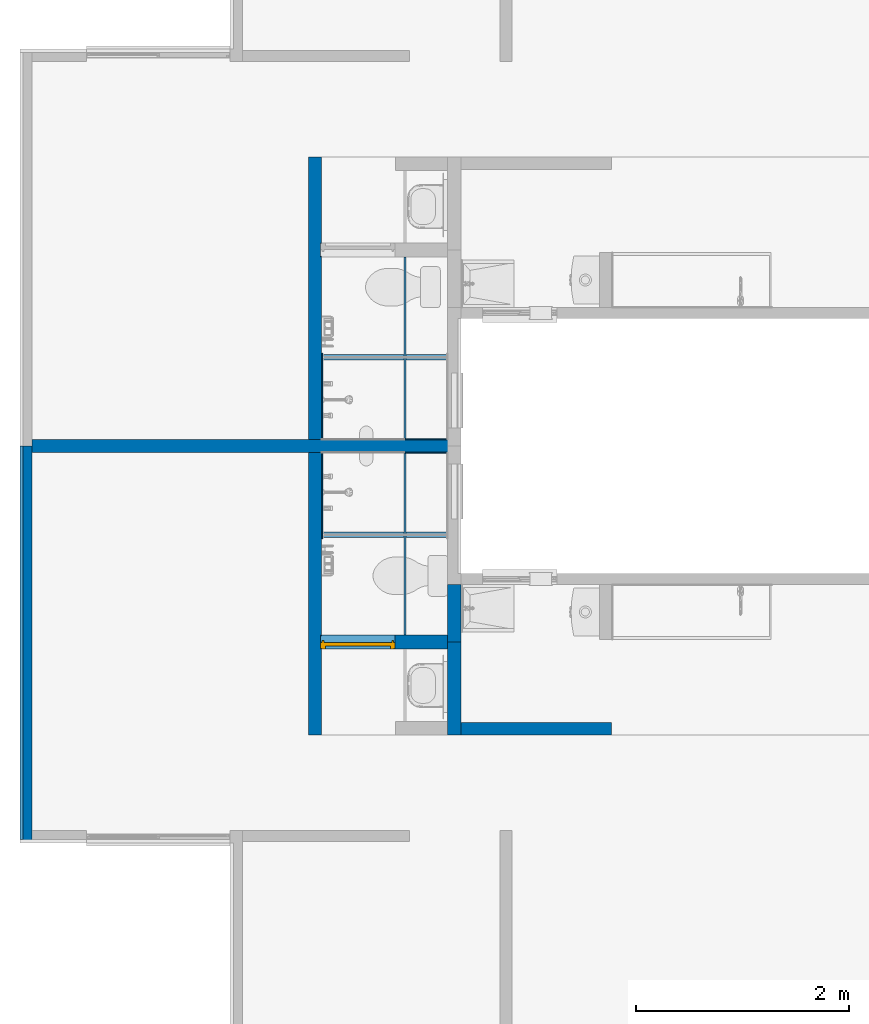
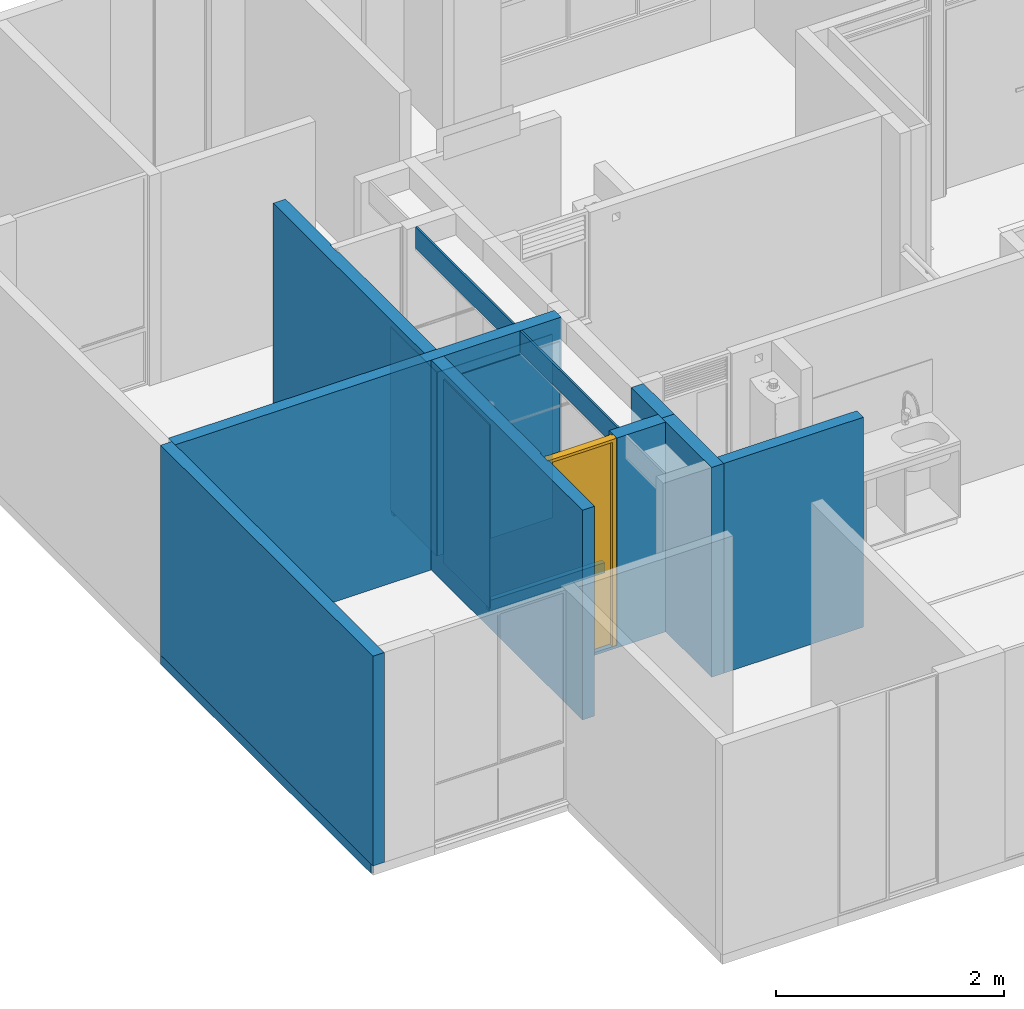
# One storey, part 7 of 48: 17 walls, 1 door, 3 openings.
"""IFC4 building model written with IfcOpenShell, lengths in metres."""

from ifc_helpers import new_model, entity, si_unit, converted_unit, derived_unit, direction, frame, origin, place, context, subcontext, project, spatial, indexed_curve, outline, extrude, polygons, source, transform, mapped, material, constituent, constituent_set, type_object, type_shapes, element, fill, save


model = new_model("IFC4")

# Units and contexts
model_context = context("Model", 3, precision=1e-05, world=origin(), true_north=direction((6.123031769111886e-17, 1.0)))
body_context = subcontext(model_context, "Body", "Model", "MODEL_VIEW")
ifc_project = project(units=[si_unit("LENGTHUNIT", "METRE"), si_unit("AREAUNIT", "SQUARE_METRE"), si_unit("VOLUMEUNIT", "CUBIC_METRE"), converted_unit("PLANEANGLEUNIT", "DEGREE", entity("IfcRatioMeasure", 0.017453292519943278), si_unit("PLANEANGLEUNIT", "RADIAN"), dimensions=[0, 0, 0, 0, 0, 0, 0]), si_unit("MASSUNIT", "GRAM", prefix="KILO"), derived_unit("MASSDENSITYUNIT", [(si_unit("MASSUNIT", "GRAM", prefix="KILO"), 1), (si_unit("LENGTHUNIT", "METRE"), -3)]), derived_unit("IONCONCENTRATIONUNIT", [(si_unit("MASSUNIT", "GRAM", prefix="KILO"), 1), (si_unit("LENGTHUNIT", "METRE"), -3)]), derived_unit("MOMENTOFINERTIAUNIT", [(si_unit("LENGTHUNIT", "METRE"), 4)]), si_unit("TIMEUNIT", "SECOND"), si_unit("FREQUENCYUNIT", "HERTZ"), si_unit("THERMODYNAMICTEMPERATUREUNIT", "DEGREE_CELSIUS"), derived_unit("THERMALTRANSMITTANCEUNIT", [(si_unit("MASSUNIT", "GRAM", prefix="KILO"), 1), (si_unit("THERMODYNAMICTEMPERATUREUNIT", "KELVIN"), -1), (si_unit("TIMEUNIT", "SECOND"), -3)]), derived_unit("THERMALCONDUCTANCEUNIT", [(si_unit("MASSUNIT", "GRAM", prefix="KILO"), 1), (si_unit("THERMODYNAMICTEMPERATUREUNIT", "KELVIN"), -1), (si_unit("TIMEUNIT", "SECOND"), -3), (si_unit("LENGTHUNIT", "METRE"), 1)]), derived_unit("VOLUMETRICFLOWRATEUNIT", [(si_unit("LENGTHUNIT", "METRE"), 3), (si_unit("TIMEUNIT", "SECOND"), -1)]), derived_unit("MASSFLOWRATEUNIT", [(si_unit("MASSUNIT", "GRAM", prefix="KILO"), 1), (si_unit("TIMEUNIT", "SECOND"), -1)]), derived_unit("ROTATIONALFREQUENCYUNIT", [(si_unit("TIMEUNIT", "SECOND"), -1)]), si_unit("ELECTRICCURRENTUNIT", "AMPERE"), si_unit("ELECTRICVOLTAGEUNIT", "VOLT"), si_unit("POWERUNIT", "WATT"), si_unit("FORCEUNIT", "NEWTON", prefix="KILO"), si_unit("ILLUMINANCEUNIT", "LUX"), si_unit("LUMINOUSFLUXUNIT", "LUMEN"), si_unit("LUMINOUSINTENSITYUNIT", "CANDELA"), derived_unit("USERDEFINED", [(si_unit("MASSUNIT", "GRAM", prefix="KILO"), -1), (si_unit("LENGTHUNIT", "METRE"), -2), (si_unit("TIMEUNIT", "SECOND"), 3), (si_unit("LUMINOUSFLUXUNIT", "LUMEN"), 1)]), derived_unit("USERDEFINED", [(si_unit("MASSUNIT", "GRAM", prefix="KILO"), 1), (si_unit("TIMEUNIT", "SECOND"), -3), (si_unit("LENGTHUNIT", "METRE"), 3), (si_unit("ELECTRICCURRENTUNIT", "AMPERE"), -2)]), derived_unit("SOUNDPOWERUNIT", [(si_unit("MASSUNIT", "GRAM", prefix="KILO"), 1), (si_unit("TIMEUNIT", "SECOND"), -3), (si_unit("LENGTHUNIT", "METRE"), 2)]), derived_unit("SOUNDPRESSUREUNIT", [(si_unit("MASSUNIT", "GRAM", prefix="KILO"), 1), (si_unit("LENGTHUNIT", "METRE"), -1), (si_unit("TIMEUNIT", "SECOND"), -2)]), derived_unit("LINEARVELOCITYUNIT", [(si_unit("LENGTHUNIT", "METRE"), 1), (si_unit("TIMEUNIT", "SECOND"), -1)]), si_unit("PRESSUREUNIT", "PASCAL"), derived_unit("USERDEFINED", [(si_unit("MASSUNIT", "GRAM", prefix="KILO"), 1), (si_unit("LENGTHUNIT", "METRE"), -2), (si_unit("TIMEUNIT", "SECOND"), -2)]), derived_unit("LINEARFORCEUNIT", [(si_unit("MASSUNIT", "GRAM", prefix="KILO"), 1), (si_unit("TIMEUNIT", "SECOND"), -2)]), derived_unit("PLANARFORCEUNIT", [(si_unit("MASSUNIT", "GRAM", prefix="KILO"), 1), (si_unit("LENGTHUNIT", "METRE"), -1), (si_unit("TIMEUNIT", "SECOND"), -2)]), derived_unit("SPECIFICHEATCAPACITYUNIT", [(si_unit("THERMODYNAMICTEMPERATUREUNIT", "KELVIN"), -1), (si_unit("LENGTHUNIT", "METRE"), 2), (si_unit("TIMEUNIT", "SECOND"), -2)]), derived_unit("HEATINGVALUEUNIT", [(si_unit("LENGTHUNIT", "METRE"), 2), (si_unit("TIMEUNIT", "SECOND"), -2)]), derived_unit("VAPORPERMEABILITYUNIT", [(si_unit("LENGTHUNIT", "METRE"), -1), (si_unit("TIMEUNIT", "SECOND"), 1)]), derived_unit("DYNAMICVISCOSITYUNIT", [(si_unit("MASSUNIT", "GRAM", prefix="KILO"), 1), (si_unit("TIMEUNIT", "SECOND"), -1), (si_unit("LENGTHUNIT", "METRE"), -1)]), derived_unit("THERMALEXPANSIONCOEFFICIENTUNIT", [(si_unit("THERMODYNAMICTEMPERATUREUNIT", "KELVIN"), -1)]), derived_unit("MODULUSOFELASTICITYUNIT", [(si_unit("MASSUNIT", "GRAM", prefix="KILO"), 1), (si_unit("LENGTHUNIT", "METRE"), -1), (si_unit("TIMEUNIT", "SECOND"), -2)]), derived_unit("ISOTHERMALMOISTURECAPACITYUNIT", [(si_unit("LENGTHUNIT", "METRE"), 3), (si_unit("MASSUNIT", "GRAM", prefix="KILO"), -1)]), derived_unit("MOISTUREDIFFUSIVITYUNIT", [(si_unit("TIMEUNIT", "SECOND"), -1), (si_unit("LENGTHUNIT", "METRE"), 2)])], contexts=[model_context])

# Site, building, storey
site_placement = place(None, origin())
site = spatial("IfcSite", under=ifc_project, at=site_placement, Name="Default", CompositionType="ELEMENT")
building_placement = place(site_placement, origin())
building = spatial("IfcBuilding", under=site, at=building_placement, CompositionType="ELEMENT")
storey_placement = place(building_placement, frame((0.0, 0.0, 4.700000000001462)))
storey = spatial("IfcBuildingStorey", under=building, at=storey_placement, Name="Nivel 3", CompositionType="ELEMENT", Elevation=4.700000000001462)

# Walls
ifc_material_1 = material(Name="Concreto (Aire)", Category="Materials")
wall_type_1 = type_object("IfcWallType", Name="Basic Wall:B2010 - 0.12m - Muro interior en concreto", PredefinedType="STANDARD")
wall_1_placement = place(storey_placement, frame((0.057499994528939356, -6.425000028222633, 0.0)))
element("IfcWall", 1, at=wall_1_placement, inside=storey, type_object=wall_type_1, material=ifc_material_1, Name="Basic Wall:B2010 - 0.12m - Muro interior en concreto", ObjectType="Basic Wall:B2010 - 0.12m - Muro interior en concreto", PredefinedType="NOTDEFINED", context=body_context, shape_type="SweptSolid", body=[
    extrude(outline(indexed_curve([(3.915, 0.06000000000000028), (-2.183027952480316e-18, 0.060000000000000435), (2.183027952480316e-18, -0.060000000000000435), (3.915, -0.06000000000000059), (3.915, 0.06000000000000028)], self_intersect=False)), origin(), (0.0, 0.0, 1.0), 2.250000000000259),
])
ifc_material_2 = material(Name="Ladrillo claro (Aire)", Category="Materials")
wall_type_2 = type_object("IfcWallType", Name="Basic Wall:B2010 - 0.115m - Muro exterior en mampostería - Ladrillo", PredefinedType="STANDARD")
wall_2_placement = place(storey_placement, frame((0.0, -10.15500002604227, 0.0), z_axis=(0.0, 0.0, 1.0), x_axis=(0.0, 1.0, 0.0)))
element("IfcWall", 2, at=wall_2_placement, inside=storey, type_object=wall_type_2, material=ifc_material_2, Name="Basic Wall:B2010 - 0.115m - Muro exterior en mampostería - Ladrillo", ObjectType="Basic Wall:B2010 - 0.115m - Muro exterior en mampostería - Ladrillo", PredefinedType="NOTDEFINED", context=body_context, shape_type="SweptSolid", body=[
    extrude(outline(indexed_curve([(3.7299999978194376, 0.0575), (-4.594741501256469e-16, 0.0575), (4.594741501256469e-16, -0.0575), (3.7299999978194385, -0.0575), (3.7299999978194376, 0.0575)], self_intersect=False)), origin(), (0.0, 0.0, 1.0), 2.2500000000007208),
])
wall_type_3 = type_object("IfcWallType", Name="Basic Wall:B2010 - 0.115m - Muro interior en mampostería - Ladrillo", PredefinedType="STANDARD")
wall_3_placement = place(storey_placement, frame((4.087499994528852, -9.082499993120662, 0.0)))
element("IfcWall", 3, at=wall_3_placement, inside=storey, type_object=wall_type_3, material=ifc_material_2, Name="Basic Wall:B2010 - 0.115m - Muro interior en mampostería - Ladrillo", ObjectType="Basic Wall:B2010 - 0.115m - Muro interior en mampostería - Ladrillo", PredefinedType="NOTDEFINED", context=body_context, shape_type="SweptSolid", body=[
    extrude(outline(indexed_curve([(1.414999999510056, 0.05749999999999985), (-1.7283953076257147e-16, 0.057499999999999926), (1.7283953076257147e-16, -0.057499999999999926), (1.4149999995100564, -0.0575), (1.414999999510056, 0.05749999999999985)], self_intersect=False)), origin(), (0.0, 0.0, 1.0), 2.2499999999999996),
])

# Wall, opening
ifc_material_3 = material(Name="Pañete", Category="Materials")
ifc_constituent_1 = constituent(ifc_material_3, Name="Pañete", Category="Materials")
ifc_constituent_2 = constituent(ifc_material_2, Name="Ladrillo claro (Aire)", Category="Materials")
ifc_constituent_set_1 = constituent_set(constituents=[ifc_constituent_1, ifc_constituent_2], Name="Basic Wall:B2010 - 0.115m - Muro interior en mampostería - Ladrillo + Pañete")
wall_type_4 = type_object("IfcWallType", Name="Basic Wall:B2010 - 0.115m - Muro interior en mampostería - Ladrillo + Pañete", PredefinedType="STANDARD", material=ifc_constituent_set_1)
wall_4_placement = place(storey_placement, frame((2.7150010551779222, -3.7100000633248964, 0.0), z_axis=(0.0, 0.0, 1.0), x_axis=(0.0, -1.0, 0.0)))
wall_4 = element("IfcWall", 4, at=wall_4_placement, inside=storey, type_object=wall_type_4, material=ifc_constituent_set_1, Name="Basic Wall:B2010 - 0.115m - Muro interior en mampostería - Ladrillo + Pañete", ObjectType="Basic Wall:B2010 - 0.115m - Muro interior en mampostería - Ladrillo + Pañete", PredefinedType="NOTDEFINED", context=body_context, shape_type="SweptSolid", body=[
    extrude(outline(indexed_curve([(-1.1325000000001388, -1.0999999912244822), (1.1174999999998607, -1.0999999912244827), (1.1175000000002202, -0.294999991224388), (-1.1024999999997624, -0.29499999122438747), (-1.1024999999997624, -0.15999999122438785), (1.1174999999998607, -0.1599999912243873), (1.1174999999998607, 1.5549999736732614), (-1.1325000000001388, 1.5549999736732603), (-1.1325000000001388, -1.0999999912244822)], self_intersect=False)), frame((1.0999999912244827, 0.0524999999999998, 1.1325000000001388), z_axis=(0.0, 1.0, 0.0), x_axis=(0.0, 0.0, 1.0)), (0.0, 0.0, 1.0), 0.009999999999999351),
    extrude(outline(indexed_curve([(-0.05750000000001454, -1.3274999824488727), (0.05749999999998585, -1.3274999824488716), (0.05750000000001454, 1.327499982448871), (-0.057499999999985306, 1.3274999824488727), (-0.05750000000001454, -1.3274999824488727)], self_intersect=False)), frame((1.3274999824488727, -0.005000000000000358, 0.0), z_axis=(0.0, 0.0, 1.0), x_axis=(0.0, 1.0, 0.0)), (0.0, 0.0, 1.0), 2.2499999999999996),
])
opening_1_placement = place(wall_4_placement, origin())
element("IfcOpeningElement", 5, at=opening_1_placement, cuts=wall_4, Name="Basic Wall:B2010 - 0.115m - Muro interior en mampostería - Ladrillo + Pañete", PredefinedType="OPENING", context=body_context, shape_type="SweptSolid", body=[
    extrude(outline(indexed_curve([(-0.06749999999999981, -1.1099999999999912), (0.06750000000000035, -1.1099999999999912), (0.06750000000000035, 1.1099999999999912), (-0.06749999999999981, 1.1099999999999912), (-0.06749999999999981, -1.1099999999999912)], self_intersect=False)), frame((0.8725000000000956, 0.05249999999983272, 1.1400000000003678), z_axis=(0.0, 1.0, 0.0), x_axis=(-1.0, 0.0, 0.0)), (0.0, 0.0, 1.0), 0.7000000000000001),
])

wall_5_placement = place(storey_placement, frame((2.715001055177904, -9.139999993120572, 0.0), z_axis=(0.0, 0.0, 1.0), x_axis=(0.0, 1.0, 0.0)))
wall_5 = element("IfcWall", 6, at=wall_5_placement, inside=storey, type_object=wall_type_4, material=ifc_constituent_set_1, Name="Basic Wall:B2010 - 0.115m - Muro interior en mampostería - Ladrillo + Pañete", ObjectType="Basic Wall:B2010 - 0.115m - Muro interior en mampostería - Ladrillo + Pañete", PredefinedType="NOTDEFINED", context=body_context, shape_type="SweptSolid", body=[
    extrude(outline(indexed_curve([(-1.1325000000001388, -1.5549999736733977), (1.1174999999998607, -1.5549999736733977), (1.1175000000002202, 0.1599999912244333), (-1.1024999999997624, 0.15999999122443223), (-1.1024999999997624, 0.29499999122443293), (1.1174999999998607, 0.2949999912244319), (1.1174999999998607, 1.0999999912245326), (-1.1325000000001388, 1.0999999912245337), (-1.1325000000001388, -1.5549999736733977)], self_intersect=False)), frame((1.0999999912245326, -0.05249999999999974, 1.1325000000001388), z_axis=(0.0, -1.0, 0.0), x_axis=(0.0, 0.0, 1.0)), (0.0, 0.0, 1.0), 0.009999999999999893),
    extrude(outline(indexed_curve([(-0.05750000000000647, -1.3274999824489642), (0.057499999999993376, -1.3274999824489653), (0.05750000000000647, 1.3274999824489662), (-0.057499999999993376, 1.3274999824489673), (-0.05750000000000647, -1.3274999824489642)], self_intersect=False)), frame((1.3274999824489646, 0.004999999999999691, 0.0), z_axis=(0.0, 0.0, 1.0), x_axis=(0.0, -1.0, 0.0)), (0.0, 0.0, 1.0), 2.2499999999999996),
])
opening_2_placement = place(wall_5_placement, origin())
element("IfcOpeningElement", 7, at=opening_2_placement, cuts=wall_5, Name="Basic Wall:B2010 - 0.115m - Muro interior en mampostería - Ladrillo + Pañete", PredefinedType="OPENING", context=body_context, shape_type="SweptSolid", body=[
    extrude(outline(indexed_curve([(-0.06749999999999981, -1.1099999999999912), (0.06749999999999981, -1.1099999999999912), (0.06749999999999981, 1.1099999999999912), (-0.06749999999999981, 1.1099999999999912), (-0.06749999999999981, -1.1099999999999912)], self_intersect=False)), frame((0.8725000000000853, -0.7524999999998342, 1.1400000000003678), z_axis=(0.0, 1.0, 0.0), x_axis=(1.0, 0.0, 0.0)), (0.0, 0.0, 1.0), 0.7000000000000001),
])

# Wall, opening, door
ifc_constituent_3 = constituent(ifc_material_3, Name="Pañete", Category="Materials")
ifc_material_4 = material(Name="LADRILLO CLARO", Category="Materials")
ifc_constituent_4 = constituent(ifc_material_4, Name="LADRILLO CLARO", Category="Materials")
ifc_constituent_5 = constituent(ifc_material_3, Name="Pañete (2)", Category="Materials")
ifc_constituent_set_2 = constituent_set(constituents=[ifc_constituent_3, ifc_constituent_4, ifc_constituent_5], Name="Basic Wall:B2010 - 0.115m - MI  mampostería no estructural - Pañete + Ladrillo + Pañete")
wall_type_5 = type_object("IfcWallType", Name="Basic Wall:B2010 - 0.115m - MI  mampostería no estructural - Pañete + Ladrillo + Pañete", PredefinedType="STANDARD", material=ifc_constituent_set_2)
wall_6_placement = place(storey_placement, frame((3.9624999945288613, -8.26749999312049, 0.0), z_axis=(0.0, 0.0, 1.0), x_axis=(-1.0, 0.0, 0.0)))
wall_6 = element("IfcWall", 8, at=wall_6_placement, inside=storey, type_object=wall_type_5, material=ifc_constituent_set_2, Name="Basic Wall:B2010 - 0.115m - MI  mampostería no estructural - Pañete + Ladrillo + Pañete", ObjectType="Basic Wall:B2010 - 0.115m - MI  mampostería no estructural - Pañete + Ladrillo + Pañete", PredefinedType="NOTDEFINED", context=body_context, shape_type="SweptSolid", body=[
    extrude(outline(indexed_curve([(-0.7600000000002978, -0.6249996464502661), (-0.7299999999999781, -0.6249996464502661), (-0.7299999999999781, 0.06500035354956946), (1.4900000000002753, 0.06500035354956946), (1.4900000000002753, 0.559999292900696), (-0.7600000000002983, 0.5599992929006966), (-0.7600000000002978, -0.6249996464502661)], self_intersect=False)), frame((0.5599992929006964, -0.057499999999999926, 0.7600000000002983), z_axis=(0.0, -1.0, 0.0), x_axis=(0.0, 0.0, 1.0)), (0.0, 0.0, 1.0), 0.009999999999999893),
    extrude(outline(indexed_curve([(-1.1325000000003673, -0.6649994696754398), (-1.102500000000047, -0.6649994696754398), (-1.102500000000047, 0.02500053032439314), (1.1175000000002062, 0.02500053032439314), (1.1175000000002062, 0.10999946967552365), (1.1175000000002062, 0.12999946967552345), (1.1175000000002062, 0.5199994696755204), (-1.1325000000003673, 0.5199994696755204), (-1.1325000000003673, -0.6649994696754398)], self_intersect=False)), frame((0.5199994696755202, 0.06749999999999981, 1.1325000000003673), z_axis=(0.0, -1.0, 0.0), x_axis=(0.0, 0.0, 1.0)), (0.0, 0.0, 1.0), 0.009999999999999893),
    extrude(outline(indexed_curve([(-0.7600000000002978, -0.6316663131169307), (-0.7299999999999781, -0.6316663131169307), (-0.7299999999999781, 0.06833368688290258), (1.4900000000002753, 0.06833368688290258), (1.4900000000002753, 0.5633326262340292), (-0.7600000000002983, 0.5633326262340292), (-0.7600000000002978, -0.6316663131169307)], self_intersect=False)), frame((0.5633326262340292, 0.057499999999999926, 0.7600000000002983), z_axis=(0.0, -1.0, 0.0), x_axis=(0.0, 0.0, 1.0)), (0.0, 0.0, 1.0), 0.11499999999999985),
])
opening_3_placement = place(wall_6_placement, frame((1.1949989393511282, 0.06749999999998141, 0.0299999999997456)))
opening_3 = element("IfcOpeningElement", 9, at=opening_3_placement, cuts=wall_6, Name="C1030 - Puerta batiente - Madera+Aluminio:C1030 - 0.70 x 2.22 - Puerta batiente - Madera+ Metal:1", PredefinedType="OPENING", context=body_context, shape_type="SweptSolid", body=[
    extrude(outline(indexed_curve([(1.438182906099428e-16, 0.7000000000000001), (1.438182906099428e-16, 0.0), (2.219999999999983, 0.0), (2.2199999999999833, 0.7000000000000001), (1.438182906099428e-16, 0.7000000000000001)], self_intersect=False)), frame((0.0, 0.0, 0.0), z_axis=(0.0, -1.0, 0.0), x_axis=(0.0, 0.0, 1.0)), (0.0, 0.0, 1.0), 0.13499999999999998),
])
ifc_material_5 = material(Name="<Unnamed>")
door_type = type_object("IfcDoorType", Name="C1030 - Puerta batiente - Madera+Aluminio:C1030 - 0.70 x 2.22 - Puerta batiente - Madera+ Metal", OperationType="SINGLE_SWING_LEFT", PredefinedType="DOOR", material=ifc_material_5)
shared_shape = source(origin(), body_context, "Body", "Tessellation", [
    polygons([(0.6699999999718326, 0.06499999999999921, 0.009880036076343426), (0.6699999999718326, 0.0324999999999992, 0.009880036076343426), (0.030000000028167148, 0.0324999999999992, 0.009880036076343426), (0.030000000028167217, 0.06499999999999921, 0.009880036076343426), (0.6699999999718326, 0.06499999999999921, 2.2050000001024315), (0.6699999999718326, 0.0324999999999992, 2.2050000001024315), (0.030000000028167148, 0.0324999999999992, 2.2050000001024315), (0.030000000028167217, 0.06499999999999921, 2.2050000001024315)], [[[1, 2, 3, 4]], [[5, 6, 2, 1]], [[6, 7, 3, 2]], [[7, 8, 4, 3]], [[8, 5, 1, 4]], [[5, 8, 7, 6]]], closed=True),
    polygons([(0.6849999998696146, 0.0649999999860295, 0.0), (0.7, 0.0649999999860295, 0.0), (0.7, 0.0074999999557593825, 0.0), (0.6849999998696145, 0.007499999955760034, 0.0), (0.6849999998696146, -5.075939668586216e-17, 0.0), (0.6549999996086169, -1.6919798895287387e-17, 0.0), (0.6549999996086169, 0.04000000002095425, 0.0), (0.6699999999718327, 0.04000000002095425, 0.0), (0.6699999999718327, 0.07999999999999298, 0.0), (0.6849999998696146, 0.07999999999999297, 0.0), (0.7, 0.0074999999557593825, 2.2199999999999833), (0.6849999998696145, 0.007499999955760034, 2.2199999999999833), (0.6849999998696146, 0.0649999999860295, 2.2199999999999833), (0.7, 0.0649999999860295, 2.2199999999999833), (0.015000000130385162, 0.06499999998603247, 0.0), (0.015000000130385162, 0.07999999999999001, 0.0), (0.030000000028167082, 0.07999999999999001, 0.0), (0.030000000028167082, 0.04000000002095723, 0.0), (0.04500000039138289, 0.04000000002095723, 0.0), (0.04500000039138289, 0.0, 0.0), (0.01500000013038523, 0.0, 0.0), (0.015000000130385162, 0.007499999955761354, 0.0), (0.0, 0.007499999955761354, 0.0), (0.0, 0.06499999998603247, 0.0), (0.0, 0.06499999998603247, 2.2199999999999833), (0.015000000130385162, 0.06499999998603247, 2.2199999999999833), (0.015000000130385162, 0.007499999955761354, 2.2199999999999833), (0.0, 0.007499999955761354, 2.2199999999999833), (0.04500000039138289, 0.04000000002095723, 2.2050000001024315), (0.04500000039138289, 0.03250000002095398, 2.2050000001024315), (0.04500000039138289, 0.03250000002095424, 2.189999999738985), (0.04500000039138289, 0.0, 2.189999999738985), (0.6549999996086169, -1.6919798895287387e-17, 2.189999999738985), (0.6549999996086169, 0.032500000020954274, 2.189999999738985), (0.6549999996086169, 0.03250000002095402, 2.2050000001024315), (0.6549999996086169, 0.04000000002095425, 2.2050000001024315), (0.030000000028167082, 0.07999999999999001, 2.2199999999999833), (0.030000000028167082, 0.07249999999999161, 2.2199999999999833), (0.030000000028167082, 0.07249999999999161, 2.2050000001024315), (0.030000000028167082, 0.04000000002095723, 2.2050000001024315), (0.6699999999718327, 0.04000000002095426, 2.2050000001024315), (0.6699999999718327, 0.07249999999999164, 2.2050000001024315), (0.6699999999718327, 0.07249999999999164, 2.2199999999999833), (0.6699999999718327, 0.07999999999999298, 2.2199999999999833), (0.015000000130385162, 0.07999999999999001, 2.2199999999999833), (0.6849999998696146, -5.075939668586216e-17, 2.2199999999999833), (0.01500000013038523, 0.0, 2.2199999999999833), (0.6849999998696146, 0.07999999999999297, 2.2199999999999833)], [[[1, 2, 3, 4, 5, 6, 7, 8, 9, 10]], [[11, 12, 4, 3]], [[13, 14, 2, 1]], [[15, 16, 17, 18, 19, 20, 21, 22, 23, 24]], [[25, 26, 15, 24]], [[27, 28, 23, 22]], [[20, 19, 29, 30, 31, 32]], [[7, 6, 33, 34, 35, 36]], [[18, 17, 37, 38, 39, 40]], [[9, 8, 41, 42, 43, 44]], [[28, 25, 24, 23]], [[14, 11, 3, 2]], [[26, 45, 16, 15]], [[45, 37, 17, 16]], [[19, 18, 40, 29]], [[21, 20, 32, 33, 6, 5, 46, 47]], [[47, 27, 22, 21]], [[12, 46, 5, 4]], [[48, 13, 1, 10]], [[26, 25, 28, 27, 47, 46, 12, 11, 14, 13, 48, 44, 43, 38, 37, 45]], [[39, 42, 41, 36, 35, 30, 29, 40]], [[33, 32, 31, 34]], [[8, 7, 36, 41]], [[44, 48, 10, 9]], [[34, 31, 30, 35]], [[42, 39, 38, 43]]], closed=True),
])
type_shapes(door_type, [shared_shape])
door_placement = place(opening_3_placement, frame((0.0, 0.0, 0.0), z_axis=(0.0, 0.0, 1.0), x_axis=(-1.0, 0.0, 0.0)))
door = element("IfcDoor", 10, at=door_placement, inside=storey, type_object=door_type, material=ifc_material_5, Name="C1030 - Puerta batiente - Madera+Aluminio:C1030 - 0.70 x 2.22 - Puerta batiente - Madera+ Metal", ObjectType="C1030 - Puerta batiente - Madera+Aluminio:C1030 - 0.70 x 2.22 - Puerta batiente - Madera+ Metal", OperationType="SINGLE_SWING_LEFT", OverallHeight=2.2199999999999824, OverallWidth=0.7000000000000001, PredefinedType="DOOR", context=body_context, shape_type="MappedRepresentation", body=[
    mapped(shared_shape, transform((0.0, 0.0, 0.0), scale=1.0)),
])
fill(opening_3, door)

# Walls
ifc_material_6 = material(Name="Pañete, estuco y pintura", Category="Materials")
ifc_constituent_6 = constituent(ifc_material_6, Name="Pañete, estuco y pintura", Category="Materials")
ifc_constituent_7 = constituent(ifc_material_2, Name="Ladrillo claro (Aire)", Category="Materials")
ifc_constituent_set_3 = constituent_set(constituents=[ifc_constituent_6, ifc_constituent_7], Name="Basic Wall:B2010 - 0.115m - Muro interior en mampostería - Ladrillo + Pañete+ estuco+ pintura")
wall_type_6 = type_object("IfcWallType", Name="Basic Wall:B2010 - 0.115m - Muro interior en mampostería - Ladrillo + Pañete+ estuco+ pintura", PredefinedType="STANDARD", material=ifc_constituent_set_3)
wall_7_placement = place(storey_placement, frame((4.024999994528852, -9.13999999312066, 0.0), z_axis=(0.0, 0.0, 1.0), x_axis=(0.0, 1.0, 0.0)))
element("IfcWall", 11, at=wall_7_placement, inside=storey, type_object=wall_type_6, material=ifc_constituent_set_3, Name="Basic Wall:B2010 - 0.115m - Muro interior en mampostería - Ladrillo + Pañete+ estuco+ pintura", ObjectType="Basic Wall:B2010 - 0.115m - Muro interior en mampostería - Ladrillo + Pañete+ estuco+ pintura", PredefinedType="NOTDEFINED", context=body_context, shape_type="SweptSolid", body=[
    extrude(outline(indexed_curve([(-0.3591666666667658, -0.003333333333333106), (0.32083333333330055, -0.0033333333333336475), (0.44583333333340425, -0.003333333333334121), (0.4458333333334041, 0.006666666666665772), (-0.4266666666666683, 0.006666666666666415), (-0.42666666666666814, -0.0033333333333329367), (-0.3591666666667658, -0.003333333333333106)], self_intersect=False)), frame((0.44583333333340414, 0.059166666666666, 0.0), z_axis=(0.0, 0.0, 1.0), x_axis=(-1.0, 0.0, 0.0)), (0.0, 0.0, 1.0), 2.2499999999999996),
    extrude(outline(indexed_curve([(-0.25700000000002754, -0.046000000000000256), (0.5005000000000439, -0.046000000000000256), (0.5005000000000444, 0.06900000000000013), (-0.372000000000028, 0.0690000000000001), (-0.37200000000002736, -0.045999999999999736), (-0.25700000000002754, -0.046000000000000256)], self_intersect=False)), frame((0.37200000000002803, -0.01650000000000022, 0.0)), (0.0, 0.0, 1.0), 2.2499999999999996),
])
wall_8_placement = place(storey_placement, frame((4.024999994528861, -8.267499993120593, 0.0), z_axis=(0.0, 0.0, 1.0), x_axis=(0.0, 1.0, 0.0)))
element("IfcWall", 12, at=wall_8_placement, inside=storey, type_object=wall_type_6, material=ifc_constituent_set_3, Name="Basic Wall:B2010 - 0.115m - Muro interior en mampostería - Ladrillo + Pañete+ estuco+ pintura", ObjectType="Basic Wall:B2010 - 0.115m - Muro interior en mampostería - Ladrillo + Pañete+ estuco+ pintura", PredefinedType="NOTDEFINED", context=body_context, shape_type="SweptSolid", body=[
    extrude(outline(indexed_curve([(0.16280569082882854, -0.004000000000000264), (0.23030569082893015, -0.004000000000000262), (0.23030569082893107, 0.0059999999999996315), (-0.3117085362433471, 0.00599999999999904), (-0.31170853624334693, -0.004000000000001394), (0.16280569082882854, -0.004000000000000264)], self_intersect=False)), frame((0.23030569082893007, 0.058499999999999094, 0.0), z_axis=(0.0, 0.0, 1.0), x_axis=(-1.0, 0.0, 0.0)), (0.0, 0.0, 1.0), 2.2499999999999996),
    extrude(outline(indexed_curve([(-0.12467143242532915, -0.03833333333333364), (-0.0906714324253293, -0.03833333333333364), (0.32484282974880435, -0.03833333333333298), (0.3248428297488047, 0.07666666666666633), (-0.21717139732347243, 0.07666666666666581), (-0.21717139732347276, -0.03833333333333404), (-0.12467143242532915, -0.03833333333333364)], self_intersect=False)), frame((0.2171713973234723, -0.024166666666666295, 0.0)), (0.0, 0.0, 1.0), 2.2499999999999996),
])
ifc_material_7 = material(Name="Ceramica 0.25m x 0.35m", Category="Materials")
wall_type_7 = type_object("IfcWallType", Name="Basic Wall:C2010 - 0.25 x 0.35 - Enchape cerámico", PredefinedType="STANDARD")
wall_9_placement = place(storey_placement, frame((2.7825010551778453, -6.365000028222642, 0.02999999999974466), z_axis=(0.0, 0.0, 1.0), x_axis=(0.0, 1.0, 0.0)))
element("IfcWall", 13, at=wall_9_placement, inside=storey, type_object=wall_type_7, material=ifc_material_7, Name="Basic Wall:C2010 - 0.25 x 0.35 - Enchape cerámico", ObjectType="Basic Wall:C2010 - 0.25 x 0.35 - Enchape cerámico", PredefinedType="NOTDEFINED", context=body_context, shape_type="SweptSolid", body=[
    extrude(outline(indexed_curve([(0.8099999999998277, 0.00500000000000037), (-3.269267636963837e-17, 0.004999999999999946), (3.269267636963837e-17, -0.004999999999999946), (0.8099999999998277, -0.004999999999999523), (0.8099999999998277, 0.00500000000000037)], self_intersect=False)), origin(), (0.0, 0.0, 1.0), 1.9700000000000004),
])
wall_10_placement = place(storey_placement, frame((2.787501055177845, -6.360000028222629, 0.029999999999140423)))
element("IfcWall", 14, at=wall_10_placement, inside=storey, type_object=wall_type_7, material=ifc_material_7, Name="Basic Wall:C2010 - 0.25 x 0.35 - Enchape cerámico", ObjectType="Basic Wall:C2010 - 0.25 x 0.35 - Enchape cerámico", PredefinedType="NOTDEFINED", context=body_context, shape_type="SweptSolid", body=[
    extrude(outline(indexed_curve([(1.1649989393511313, 0.004999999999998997), (-2.3810892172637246e-17, 0.004999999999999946), (2.3810892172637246e-17, -0.004999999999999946), (1.1649989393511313, -0.005000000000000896), (1.1649989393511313, 0.004999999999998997)], self_intersect=False)), origin(), (0.0, 0.0, 1.0), 1.9700000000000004),
])
wall_11_placement = place(storey_placement, frame((2.782501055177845, -6.485000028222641, 0.02999999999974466), z_axis=(0.0, 0.0, 1.0), x_axis=(0.0, -1.0, 0.0)))
element("IfcWall", 15, at=wall_11_placement, inside=storey, type_object=wall_type_7, material=ifc_material_7, Name="Basic Wall:C2010 - 0.25 x 0.35 - Enchape cerámico", ObjectType="Basic Wall:C2010 - 0.25 x 0.35 - Enchape cerámico", PredefinedType="NOTDEFINED", context=body_context, shape_type="SweptSolid", body=[
    extrude(outline(indexed_curve([(0.8100000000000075, 0.004999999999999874), (4.468811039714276e-19, 0.004999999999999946), (-4.468811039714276e-19, -0.004999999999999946), (0.8100000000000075, -0.005000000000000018), (0.8100000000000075, 0.004999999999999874)], self_intersect=False)), origin(), (0.0, 0.0, 1.0), 1.9700000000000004),
])
wall_12_placement = place(storey_placement, frame((2.7875010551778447, -6.490000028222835, 0.029999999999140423)))
element("IfcWall", 16, at=wall_12_placement, inside=storey, type_object=wall_type_7, material=ifc_material_7, Name="Basic Wall:C2010 - 0.25 x 0.35 - Enchape cerámico", ObjectType="Basic Wall:C2010 - 0.25 x 0.35 - Enchape cerámico", PredefinedType="NOTDEFINED", context=body_context, shape_type="SweptSolid", body=[
    extrude(outline(indexed_curve([(1.1649989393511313, 0.004999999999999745), (-8.43490309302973e-18, 0.004999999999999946), (8.43490309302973e-18, -0.004999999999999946), (1.1649989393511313, -0.0050000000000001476), (1.1649989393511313, 0.004999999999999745)], self_intersect=False)), origin(), (0.0, 0.0, 1.0), 1.9700000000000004),
])
ifc_material_8 = material(Name="0 muro divisorio", Category="Materials")
wall_type_8 = type_object("IfcWallType", Name="Basic Wall:B2010 - 0.05m - Poyo para duchas - Concreto", PredefinedType="STANDARD")
wall_13_placement = place(storey_placement, frame((2.777501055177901, -5.590000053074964, 0.0)))
element("IfcWall", 17, at=wall_13_placement, inside=storey, type_object=wall_type_8, material=ifc_material_8, Name="Basic Wall:B2010 - 0.05m - Poyo para duchas - Concreto", ObjectType="Basic Wall:B2010 - 0.05m - Poyo para duchas - Concreto", PredefinedType="NOTDEFINED", context=body_context, shape_type="SweptSolid", body=[
    extrude(outline(indexed_curve([(1.1749989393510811, 0.02499999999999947), (7.46625923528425e-17, 0.02499999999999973), (-7.46625923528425e-17, -0.02499999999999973), (1.1749989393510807, -0.024999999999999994), (1.1749989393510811, 0.02499999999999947)], self_intersect=False)), origin(), (0.0, 0.0, 1.0), 0.11000000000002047),
])
wall_14_placement = place(storey_placement, frame((2.777501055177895, -7.260000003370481, 0.0)))
element("IfcWall", 18, at=wall_14_placement, inside=storey, type_object=wall_type_8, material=ifc_material_8, Name="Basic Wall:B2010 - 0.05m - Poyo para duchas - Concreto", ObjectType="Basic Wall:B2010 - 0.05m - Poyo para duchas - Concreto", PredefinedType="NOTDEFINED", context=body_context, shape_type="SweptSolid", body=[
    extrude(outline(indexed_curve([(1.1749989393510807, 0.025000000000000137), (-7.772420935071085e-17, 0.02499999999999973), (7.772420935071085e-17, -0.02499999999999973), (1.1749989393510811, -0.024999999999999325), (1.1749989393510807, 0.025000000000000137)], self_intersect=False)), origin(), (0.0, 0.0, 1.0), 0.11000000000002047),
])
ifc_material_9 = material(Name="Plasterboard", Category="Materials")
wall_type_9 = type_object("IfcWallType", Name="Basic Wall:C1070 - 0.02m - Plafón - Drywall", PredefinedType="STANDARD")
wall_15_placement = place(storey_placement, frame((3.5624999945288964, -6.365000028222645, 2.019999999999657), z_axis=(0.0, 0.0, 1.0), x_axis=(0.0, 1.0, 0.0)))
element("IfcWall", 19, at=wall_15_placement, inside=storey, type_object=wall_type_9, material=ifc_material_9, Name="Basic Wall:C1070 - 0.02m - Plafón - Drywall", ObjectType="Basic Wall:C1070 - 0.02m - Plafón - Drywall", PredefinedType="NOTDEFINED", context=body_context, shape_type="SweptSolid", body=[
    extrude(outline(indexed_curve([(1.71499996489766, 0.00999999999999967), (7.706224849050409e-17, 0.009999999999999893), (-7.706224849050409e-17, -0.009999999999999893), (1.71499996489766, -0.010000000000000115), (1.71499996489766, 0.00999999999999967)], self_intersect=False)), origin(), (0.0, 0.0, 1.0), 0.23000000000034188),
])
wall_16_placement = place(storey_placement, frame((3.5624999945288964, -6.485000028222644, 2.019999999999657), z_axis=(0.0, 0.0, 1.0), x_axis=(0.0, -1.0, 0.0)))
element("IfcWall", 20, at=wall_16_placement, inside=storey, type_object=wall_type_9, material=ifc_material_9, Name="Basic Wall:C1070 - 0.02m - Plafón - Drywall", ObjectType="Basic Wall:C1070 - 0.02m - Plafón - Drywall", PredefinedType="NOTDEFINED", context=body_context, shape_type="SweptSolid", body=[
    extrude(outline(indexed_curve([(1.7149999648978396, 0.009999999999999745), (-1.4120029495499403e-16, 0.009999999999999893), (1.4120029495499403e-16, -0.009999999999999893), (1.71499996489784, -0.01000000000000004), (1.7149999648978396, 0.009999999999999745)], self_intersect=False)), origin(), (0.0, 0.0, 1.0), 0.23000000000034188),
])
wall_type_10 = type_object("IfcWallType", Name="Basic Wall:B2010 - 0.03m - ME enchape  no estructural - Ladrillo", PredefinedType="STANDARD")
wall_17_placement = place(storey_placement, frame((-0.04249999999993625, -10.125000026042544, -0.1000000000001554), z_axis=(0.0, 0.0, 1.0), x_axis=(0.0, 1.0, 0.0)))
element("IfcWall", 21, at=wall_17_placement, inside=storey, type_object=wall_type_10, material=ifc_material_4, Name="Basic Wall:B2010 - 0.03m - ME enchape  no estructural - Ladrillo", ObjectType="Basic Wall:B2010 - 0.03m - ME enchape  no estructural - Ladrillo", PredefinedType="NOTDEFINED", context=body_context, shape_type="SweptSolid", body=[
    extrude(outline(indexed_curve([(3.699999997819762, 0.015000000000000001), (2.6129816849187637e-17, 0.015), (-2.6129816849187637e-17, -0.015), (3.699999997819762, -0.015000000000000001), (3.699999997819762, 0.015000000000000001)], self_intersect=False)), origin(), (0.0, 0.0, 1.0), 0.1),
])

save(model, "model.ifc")
